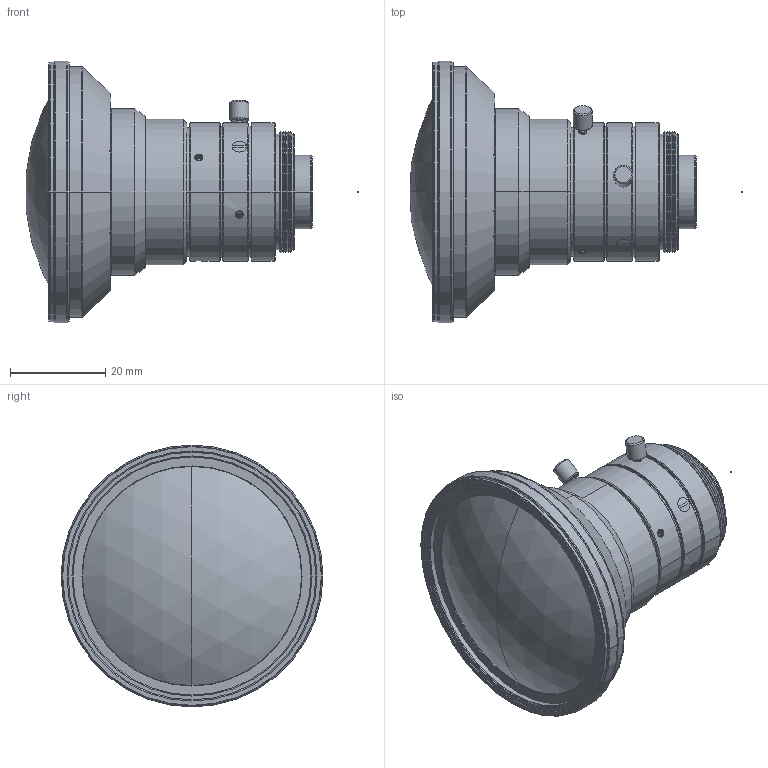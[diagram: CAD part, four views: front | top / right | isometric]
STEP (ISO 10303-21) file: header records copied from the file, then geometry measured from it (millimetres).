
FILE_DESCRIPTION(('LS-FFL-0017'),'2;1');
FILE_NAME('LS-FFL-0017.stp','2026-10-15T21:48:33',('LumaSpec Vision'),('LumaSpec Vision'),'LumaSpec Vision','LumaSpec Vision','');
FILE_SCHEMA(('AUTOMOTIVE_DESIGN { 1 0 10303 214 1 1 1 1 }'));
Length unit declared in the file: millimetre
Products named in the file (37): LS-FFL-0017
Assembly tree (36 placements, depth 3):
  LS-FFL-0017
    (unnamed)
      (unnamed)
      (unnamed)
      (unnamed)
      (unnamed)
      (unnamed)
      (unnamed)
      (unnamed)
      (unnamed)
      (unnamed)
      (unnamed)
      (unnamed)
      (unnamed)
      (unnamed)
      (unnamed)
      (unnamed)
      (unnamed)
      (unnamed)
    (unnamed)
      (unnamed)
      (unnamed)
      (unnamed)
      (unnamed)
      (unnamed)
      (unnamed)
      (unnamed)
      (unnamed)
      (unnamed)
      (unnamed)
      (unnamed)
      (unnamed)
      (unnamed)
      (unnamed)
      (unnamed)
      (unnamed)
      (unnamed)
Bounding box: 69.72 x 55 x 55 mm (x, y, z)
Surface area: 70844.5 mm2 (no closed solid volume)
Topology: 0 solids, 34 shells, 1416 faces, 2856 edges, 1644 vertices
Faces by surface type: cone 832, cylinder 364, plane 200, sphere 20
Entity records: 82066 total; most frequent: CARTESIAN_POINT 21037, DIRECTION 12397, LINE 5963, VECTOR 5963, ORIENTED_EDGE 5688, PCURVE 5688, DEFINITIONAL_REPRESENTATION 5688, AXIS2_PLACEMENT_3D 3029
